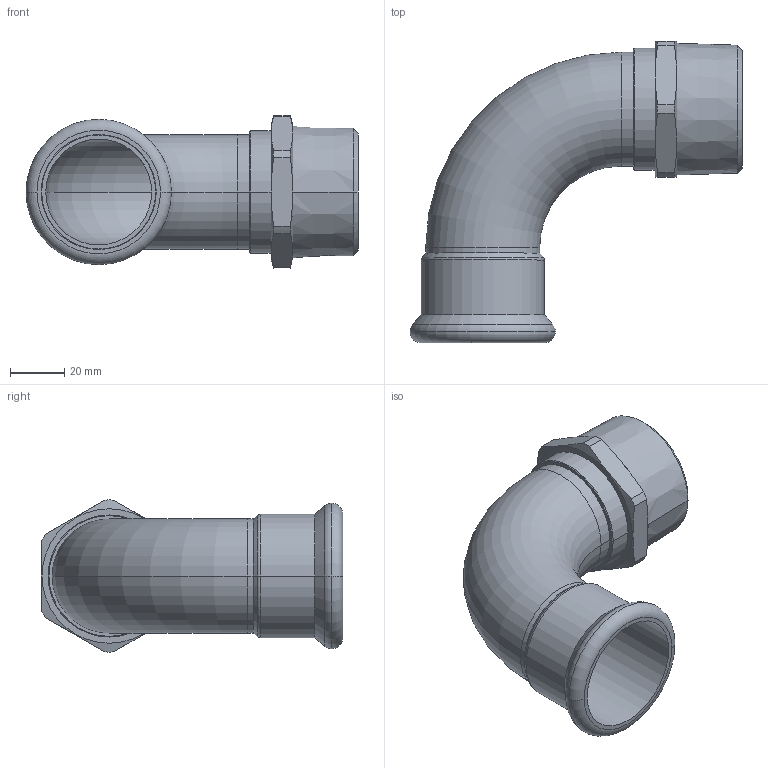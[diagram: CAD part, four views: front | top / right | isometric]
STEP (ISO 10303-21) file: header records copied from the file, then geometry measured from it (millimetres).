
FILE_DESCRIPTION(('CoCreate Modeling STEP Export'),'2;1');
FILE_NAME('C1430 42xR1 1-2.stp','2014-11-12T16:18:07',(''),(''),'CoCreate Modeling STEP processor for AP214 (Solid Model)','CoCreate Modeling 17.00A 17-Jun-2010 (C) Parametric Technology GmbH','');
FILE_SCHEMA(('AUTOMOTIVE_DESIGN { 1 0 10303 214 1 1 1 1 }'));
Length unit declared in the file: millimetre
Products named in the file (2): C1430_42xR1_1-2
Assembly tree (1 placements, depth 2):
  C1430_42xR1_1-2
    C1430_42xR1_1-2
Bounding box: 122.28 x 111 x 55.99 mm (x, y, z)
Volume: 52914.2 mm3; surface area: 44800.6 mm2
Topology: 1 solids, 1 shells, 59 faces, 133 edges, 81 vertices
Faces by surface type: cylinder 22, cone 14, plane 13, torus 10
Entity records: 2228 total; most frequent: CARTESIAN_POINT 1016, ORIENTED_EDGE 266, DIRECTION 212, EDGE_CURVE 133, AXIS2_PLACEMENT_3D 85, VERTEX_POINT 81, EDGE_LOOP 66, FACE_OUTER_BOUND 59
